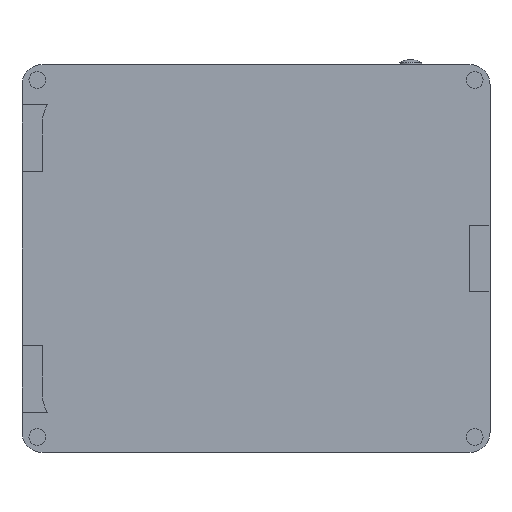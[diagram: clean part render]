
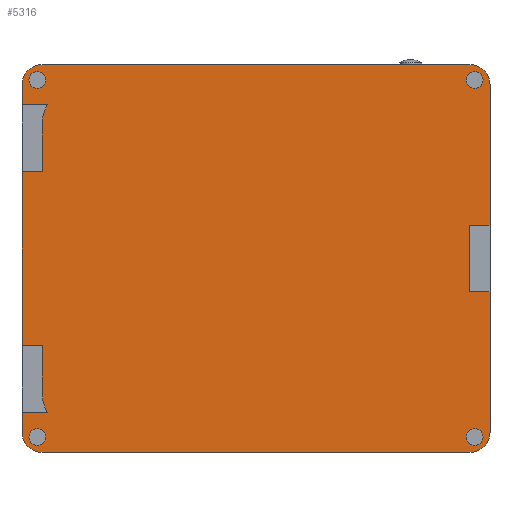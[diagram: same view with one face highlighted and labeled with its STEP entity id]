
A CAD part, front view. The second image highlights one B-rep face of the part: STEP entity #5316.
In plain terms, the highlighted planar face has unit normal (0, -1, 0).
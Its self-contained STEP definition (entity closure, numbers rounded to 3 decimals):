
#328=FACE_BOUND('',#1813,.T.);
#329=FACE_BOUND('',#1814,.T.);
#330=FACE_BOUND('',#1815,.T.);
#331=FACE_BOUND('',#1816,.T.);
#488=LINE('',#7466,#979);
#545=LINE('',#8012,#1036);
#549=LINE('',#8020,#1040);
#553=LINE('',#8027,#1044);
#573=LINE('',#8079,#1064);
#580=LINE('',#8102,#1071);
#583=LINE('',#8109,#1074);
#587=LINE('',#8116,#1078);
#589=LINE('',#8119,#1080);
#591=LINE('',#8124,#1082);
#594=LINE('',#8130,#1085);
#598=LINE('',#8137,#1089);
#599=LINE('',#8138,#1090);
#600=LINE('',#8140,#1091);
#601=LINE('',#8143,#1092);
#602=LINE('',#8145,#1093);
#979=VECTOR('',#6332,10.);
#1036=VECTOR('',#6411,10.);
#1040=VECTOR('',#6415,10.);
#1044=VECTOR('',#6419,10.);
#1064=VECTOR('',#6481,10.);
#1071=VECTOR('',#6502,10.);
#1074=VECTOR('',#6507,10.);
#1078=VECTOR('',#6513,10.);
#1080=VECTOR('',#6517,10.);
#1082=VECTOR('',#6523,10.);
#1085=VECTOR('',#6528,10.);
#1089=VECTOR('',#6536,10.);
#1090=VECTOR('',#6537,10.);
#1091=VECTOR('',#6538,10.);
#1092=VECTOR('',#6541,10.);
#1093=VECTOR('',#6542,10.);
#1493=FACE_OUTER_BOUND('',#1812,.T.);
#1812=EDGE_LOOP('',(#4155,#4156,#4157,#4158,#4159,#4160,#4161,#4162,#4163,
#4164,#4165,#4166,#4167,#4168,#4169,#4170,#4171,#4172,#4173,#4174,#4175,
#4176));
#1813=EDGE_LOOP('',(#4177));
#1814=EDGE_LOOP('',(#4178));
#1815=EDGE_LOOP('',(#4179));
#1816=EDGE_LOOP('',(#4180));
#2104=CIRCLE('',#5697,3.);
#2109=CIRCLE('',#5704,3.);
#2110=CIRCLE('',#5721,6.);
#2112=CIRCLE('',#5724,6.);
#2114=CIRCLE('',#5735,3.);
#2115=CIRCLE('',#5736,3.);
#2116=CIRCLE('',#5737,1.25);
#2117=CIRCLE('',#5738,1.25);
#2118=CIRCLE('',#5739,1.25);
#2119=CIRCLE('',#5740,1.25);
#2293=VERTEX_POINT('',#7463);
#2294=VERTEX_POINT('',#7465);
#2425=VERTEX_POINT('',#8005);
#2426=VERTEX_POINT('',#8009);
#2427=VERTEX_POINT('',#8011);
#2430=VERTEX_POINT('',#8017);
#2431=VERTEX_POINT('',#8019);
#2434=VERTEX_POINT('',#8025);
#2443=VERTEX_POINT('',#8045);
#2444=VERTEX_POINT('',#8077);
#2445=VERTEX_POINT('',#8078);
#2448=VERTEX_POINT('',#8086);
#2450=VERTEX_POINT('',#8092);
#2451=VERTEX_POINT('',#8093);
#2454=VERTEX_POINT('',#8101);
#2456=VERTEX_POINT('',#8107);
#2457=VERTEX_POINT('',#8108);
#2460=VERTEX_POINT('',#8123);
#2462=VERTEX_POINT('',#8129);
#2464=VERTEX_POINT('',#8139);
#2465=VERTEX_POINT('',#8141);
#2466=VERTEX_POINT('',#8144);
#2467=VERTEX_POINT('',#8147);
#2468=VERTEX_POINT('',#8149);
#2469=VERTEX_POINT('',#8151);
#2470=VERTEX_POINT('',#8153);
#2896=EDGE_CURVE('',#2294,#2293,#488,.T.);
#3029=EDGE_CURVE('',#2425,#2293,#2104,.T.);
#3031=EDGE_CURVE('',#2427,#2426,#545,.T.);
#3035=EDGE_CURVE('',#2431,#2430,#549,.T.);
#3039=EDGE_CURVE('',#2425,#2434,#553,.T.);
#3049=EDGE_CURVE('',#2443,#2426,#2109,.T.);
#3064=EDGE_CURVE('',#2444,#2445,#573,.T.);
#3068=EDGE_CURVE('',#2445,#2448,#2110,.T.);
#3071=EDGE_CURVE('',#2450,#2451,#2112,.T.);
#3075=EDGE_CURVE('',#2451,#2454,#580,.T.);
#3078=EDGE_CURVE('',#2456,#2457,#583,.T.);
#3082=EDGE_CURVE('',#2444,#2431,#587,.T.);
#3084=EDGE_CURVE('',#2434,#2448,#589,.T.);
#3086=EDGE_CURVE('',#2456,#2460,#591,.T.);
#3089=EDGE_CURVE('',#2462,#2457,#594,.T.);
#3093=EDGE_CURVE('',#2430,#2454,#598,.T.);
#3094=EDGE_CURVE('',#2450,#2427,#599,.T.);
#3095=EDGE_CURVE('',#2464,#2443,#600,.T.);
#3096=EDGE_CURVE('',#2465,#2464,#2114,.T.);
#3097=EDGE_CURVE('',#2465,#2462,#601,.T.);
#3098=EDGE_CURVE('',#2460,#2466,#602,.T.);
#3099=EDGE_CURVE('',#2294,#2466,#2115,.T.);
#3100=EDGE_CURVE('',#2467,#2467,#2116,.T.);
#3101=EDGE_CURVE('',#2468,#2468,#2117,.T.);
#3102=EDGE_CURVE('',#2469,#2469,#2118,.T.);
#3103=EDGE_CURVE('',#2470,#2470,#2119,.T.);
#4155=ORIENTED_EDGE('',*,*,#3082,.T.);
#4156=ORIENTED_EDGE('',*,*,#3035,.T.);
#4157=ORIENTED_EDGE('',*,*,#3093,.T.);
#4158=ORIENTED_EDGE('',*,*,#3075,.F.);
#4159=ORIENTED_EDGE('',*,*,#3071,.F.);
#4160=ORIENTED_EDGE('',*,*,#3094,.T.);
#4161=ORIENTED_EDGE('',*,*,#3031,.T.);
#4162=ORIENTED_EDGE('',*,*,#3049,.F.);
#4163=ORIENTED_EDGE('',*,*,#3095,.F.);
#4164=ORIENTED_EDGE('',*,*,#3096,.F.);
#4165=ORIENTED_EDGE('',*,*,#3097,.T.);
#4166=ORIENTED_EDGE('',*,*,#3089,.T.);
#4167=ORIENTED_EDGE('',*,*,#3078,.F.);
#4168=ORIENTED_EDGE('',*,*,#3086,.T.);
#4169=ORIENTED_EDGE('',*,*,#3098,.T.);
#4170=ORIENTED_EDGE('',*,*,#3099,.F.);
#4171=ORIENTED_EDGE('',*,*,#2896,.T.);
#4172=ORIENTED_EDGE('',*,*,#3029,.F.);
#4173=ORIENTED_EDGE('',*,*,#3039,.T.);
#4174=ORIENTED_EDGE('',*,*,#3084,.T.);
#4175=ORIENTED_EDGE('',*,*,#3068,.F.);
#4176=ORIENTED_EDGE('',*,*,#3064,.F.);
#4177=ORIENTED_EDGE('',*,*,#3100,.T.);
#4178=ORIENTED_EDGE('',*,*,#3101,.T.);
#4179=ORIENTED_EDGE('',*,*,#3102,.T.);
#4180=ORIENTED_EDGE('',*,*,#3103,.T.);
#5125=PLANE('',#5734);
#5316=ADVANCED_FACE('',(#1493,#328,#329,#330,#331),#5125,.T.);
#5697=AXIS2_PLACEMENT_3D('',#8007,#6406,#6407);
#5704=AXIS2_PLACEMENT_3D('',#8047,#6435,#6436);
#5721=AXIS2_PLACEMENT_3D('',#8087,#6487,#6488);
#5724=AXIS2_PLACEMENT_3D('',#8094,#6494,#6495);
#5734=AXIS2_PLACEMENT_3D('',#8136,#6534,#6535);
#5735=AXIS2_PLACEMENT_3D('',#8142,#6539,#6540);
#5736=AXIS2_PLACEMENT_3D('',#8146,#6543,#6544);
#5737=AXIS2_PLACEMENT_3D('',#8148,#6545,#6546);
#5738=AXIS2_PLACEMENT_3D('',#8150,#6547,#6548);
#5739=AXIS2_PLACEMENT_3D('',#8152,#6549,#6550);
#5740=AXIS2_PLACEMENT_3D('',#8154,#6551,#6552);
#6332=DIRECTION('',(-1.,0.,0.));
#6406=DIRECTION('center_axis',(0.,1.,0.));
#6407=DIRECTION('ref_axis',(-0.707,0.,0.707));
#6411=DIRECTION('',(0.,0.,-1.));
#6415=DIRECTION('',(0.,0.,-1.));
#6419=DIRECTION('',(0.,0.,-1.));
#6435=DIRECTION('center_axis',(0.,1.,0.));
#6436=DIRECTION('ref_axis',(0.,0.,-1.));
#6481=DIRECTION('',(0.,0.,1.));
#6487=DIRECTION('center_axis',(0.,1.,0.));
#6488=DIRECTION('ref_axis',(-0.707,0.,0.707));
#6494=DIRECTION('center_axis',(0.,1.,0.));
#6495=DIRECTION('ref_axis',(0.,0.,-1.));
#6502=DIRECTION('',(0.,0.,1.));
#6507=DIRECTION('',(0.,0.,-1.));
#6513=DIRECTION('',(-1.,0.,0.));
#6517=DIRECTION('',(1.,0.,0.));
#6523=DIRECTION('',(1.,0.,0.));
#6528=DIRECTION('',(-1.,0.,0.));
#6534=DIRECTION('center_axis',(0.,-1.,0.));
#6535=DIRECTION('ref_axis',(-1.,0.,0.));
#6536=DIRECTION('',(1.,0.,0.));
#6537=DIRECTION('',(-1.,0.,0.));
#6538=DIRECTION('',(-1.,0.,0.));
#6539=DIRECTION('center_axis',(0.,1.,0.));
#6540=DIRECTION('ref_axis',(1.,0.,0.));
#6541=DIRECTION('',(0.,0.,1.));
#6542=DIRECTION('',(0.,0.,1.));
#6543=DIRECTION('center_axis',(0.,1.,0.));
#6544=DIRECTION('ref_axis',(0.707,0.,0.707));
#6545=DIRECTION('center_axis',(0.,1.,0.));
#6546=DIRECTION('ref_axis',(1.,0.,0.));
#6547=DIRECTION('center_axis',(0.,1.,0.));
#6548=DIRECTION('ref_axis',(1.,0.,0.));
#6549=DIRECTION('center_axis',(0.,1.,0.));
#6550=DIRECTION('ref_axis',(-1.,0.,0.));
#6551=DIRECTION('center_axis',(0.,1.,0.));
#6552=DIRECTION('ref_axis',(-1.,0.,0.));
#7463=CARTESIAN_POINT('',(-13.117,-4.01,2.997));
#7465=CARTESIAN_POINT('',(50.883,-4.01,2.997));
#7466=CARTESIAN_POINT('',(53.883,-4.01,2.997));
#8005=CARTESIAN_POINT('',(-16.117,-4.01,-0.003));
#8007=CARTESIAN_POINT('Origin',(-13.117,-4.01,-0.003));
#8009=CARTESIAN_POINT('',(-16.117,-4.01,-52.003));
#8011=CARTESIAN_POINT('',(-16.117,-4.01,-49.003));
#8012=CARTESIAN_POINT('',(-16.117,-4.01,2.997));
#8017=CARTESIAN_POINT('',(-16.117,-4.01,-39.003));
#8019=CARTESIAN_POINT('',(-16.117,-4.01,-13.003));
#8020=CARTESIAN_POINT('',(-16.117,-4.01,2.997));
#8025=CARTESIAN_POINT('',(-16.117,-4.01,-3.003));
#8027=CARTESIAN_POINT('',(-16.117,-4.01,2.997));
#8045=CARTESIAN_POINT('',(-13.117,-4.01,-55.003));
#8047=CARTESIAN_POINT('Origin',(-13.117,-4.01,-52.003));
#8077=CARTESIAN_POINT('',(-13.117,-4.01,-13.003));
#8078=CARTESIAN_POINT('',(-13.117,-4.01,-6.003));
#8079=CARTESIAN_POINT('',(-13.117,-4.01,-28.415));
#8086=CARTESIAN_POINT('',(-12.313,-4.01,-3.003));
#8087=CARTESIAN_POINT('Origin',(-7.117,-4.01,-6.003));
#8092=CARTESIAN_POINT('',(-12.313,-4.01,-49.003));
#8093=CARTESIAN_POINT('',(-13.117,-4.01,-46.003));
#8094=CARTESIAN_POINT('Origin',(-7.117,-4.01,-46.003));
#8101=CARTESIAN_POINT('',(-13.117,-4.01,-39.003));
#8102=CARTESIAN_POINT('',(-13.117,-4.01,-43.753));
#8107=CARTESIAN_POINT('',(50.883,-4.01,-21.003));
#8108=CARTESIAN_POINT('',(50.883,-4.01,-31.003));
#8109=CARTESIAN_POINT('',(50.883,-4.01,-15.503));
#8116=CARTESIAN_POINT('',(1.383,-4.01,-13.003));
#8119=CARTESIAN_POINT('',(3.285,-4.01,-3.003));
#8123=CARTESIAN_POINT('',(53.883,-4.01,-21.003));
#8124=CARTESIAN_POINT('',(36.383,-4.01,-21.003));
#8129=CARTESIAN_POINT('',(53.883,-4.01,-31.003));
#8130=CARTESIAN_POINT('',(34.883,-4.01,-31.003));
#8136=CARTESIAN_POINT('Origin',(18.883,-4.01,-21.503));
#8137=CARTESIAN_POINT('',(2.883,-4.01,-39.003));
#8138=CARTESIAN_POINT('',(1.383,-4.01,-49.003));
#8139=CARTESIAN_POINT('',(50.883,-4.01,-55.003));
#8140=CARTESIAN_POINT('',(2.883,-4.01,-55.003));
#8141=CARTESIAN_POINT('',(53.883,-4.01,-52.003));
#8142=CARTESIAN_POINT('Origin',(50.883,-4.01,-52.003));
#8143=CARTESIAN_POINT('',(53.883,-4.01,-46.003));
#8144=CARTESIAN_POINT('',(53.883,-4.01,-0.003));
#8145=CARTESIAN_POINT('',(53.883,-4.01,-46.003));
#8146=CARTESIAN_POINT('Origin',(50.883,-4.01,-0.003));
#8147=CARTESIAN_POINT('',(-15.074,-4.01,-52.71));
#8148=CARTESIAN_POINT('Origin',(-13.824,-4.01,-52.71));
#8149=CARTESIAN_POINT('',(50.341,-4.01,-52.71));
#8150=CARTESIAN_POINT('Origin',(51.591,-4.01,-52.71));
#8151=CARTESIAN_POINT('',(-12.574,-4.01,0.704));
#8152=CARTESIAN_POINT('Origin',(-13.824,-4.01,0.704));
#8153=CARTESIAN_POINT('',(52.841,-4.01,0.704));
#8154=CARTESIAN_POINT('Origin',(51.591,-4.01,0.704));
